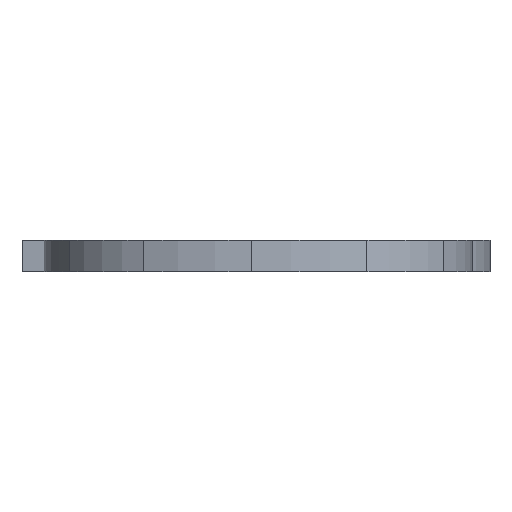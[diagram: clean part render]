
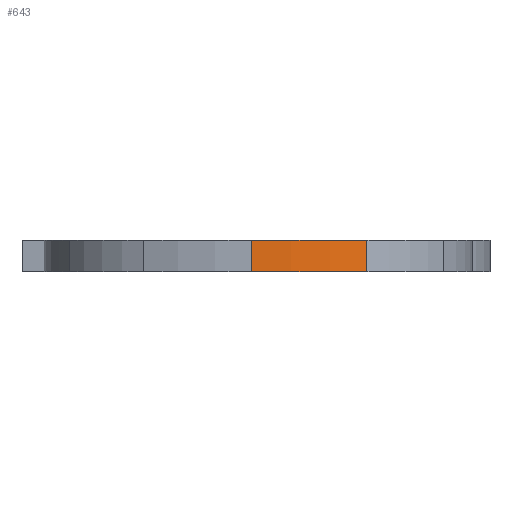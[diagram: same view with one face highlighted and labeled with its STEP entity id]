
A CAD part, left-side view. The second image highlights one B-rep face of the part: STEP entity #643.
In plain terms, the highlighted cylindrical face has radius 0.464 mm (diameter 0.929 mm), a partial arc.
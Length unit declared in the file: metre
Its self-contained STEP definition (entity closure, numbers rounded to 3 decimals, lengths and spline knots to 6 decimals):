
#46=CIRCLE('',#720,0.000464);
#47=CIRCLE('',#721,0.000464);
#92=B_SPLINE_CURVE_WITH_KNOTS('',3,(#1143,#1144,#1145,#1146),
 .UNSPECIFIED.,.F.,.F.,(4,4),(0.,1.),.UNSPECIFIED.);
#93=B_SPLINE_CURVE_WITH_KNOTS('',3,(#1152,#1153,#1154,#1155),
 .UNSPECIFIED.,.F.,.F.,(4,4),(0.,1.),.UNSPECIFIED.);
#123=CYLINDRICAL_SURFACE('',#719,0.000464);
#215=ORIENTED_EDGE('',*,*,#407,.T.);
#216=ORIENTED_EDGE('',*,*,#408,.T.);
#217=ORIENTED_EDGE('',*,*,#404,.F.);
#218=ORIENTED_EDGE('',*,*,#409,.F.);
#404=EDGE_CURVE('',#492,#493,#92,.T.);
#407=EDGE_CURVE('',#494,#495,#93,.T.);
#408=EDGE_CURVE('',#495,#493,#46,.F.);
#409=EDGE_CURVE('',#494,#492,#47,.F.);
#492=VERTEX_POINT('',#1147);
#493=VERTEX_POINT('',#1148);
#494=VERTEX_POINT('',#1156);
#495=VERTEX_POINT('',#1157);
#565=EDGE_LOOP('',(#215,#216,#217,#218));
#602=FACE_BOUND('',#565,.T.);
#643=ADVANCED_FACE('',(#602),#123,.T.);
#719=AXIS2_PLACEMENT_3D('',#1151,#886,#887);
#720=AXIS2_PLACEMENT_3D('',#1158,#888,#889);
#721=AXIS2_PLACEMENT_3D('',#1159,#890,#891);
#886=DIRECTION('',(0.,0.,-1.));
#887=DIRECTION('',(1.,0.,0.));
#888=DIRECTION('',(0.,0.,-1.));
#889=DIRECTION('',(1.,0.,0.));
#890=DIRECTION('',(0.,0.,-1.));
#891=DIRECTION('',(1.,0.,0.));
#1143=CARTESIAN_POINT('',(-0.024106,0.005095,-0.03));
#1144=CARTESIAN_POINT('',(-0.024106,0.005095,-0.030017));
#1145=CARTESIAN_POINT('',(-0.024106,0.005095,-0.030033));
#1146=CARTESIAN_POINT('',(-0.024106,0.005095,-0.03005));
#1147=CARTESIAN_POINT('',(-0.024106,0.005095,-0.03));
#1148=CARTESIAN_POINT('',(-0.024106,0.005095,-0.03005));
#1151=CARTESIAN_POINT('',(-0.023675,0.005267,-0.03));
#1152=CARTESIAN_POINT('',(-0.024139,0.005278,-0.03));
#1153=CARTESIAN_POINT('',(-0.024139,0.005278,-0.030017));
#1154=CARTESIAN_POINT('',(-0.024139,0.005278,-0.030033));
#1155=CARTESIAN_POINT('',(-0.024139,0.005278,-0.03005));
#1156=CARTESIAN_POINT('',(-0.02414,0.005278,-0.03));
#1157=CARTESIAN_POINT('',(-0.02414,0.005278,-0.03005));
#1158=CARTESIAN_POINT('',(-0.023675,0.005267,-0.03005));
#1159=CARTESIAN_POINT('',(-0.023675,0.005267,-0.03));
